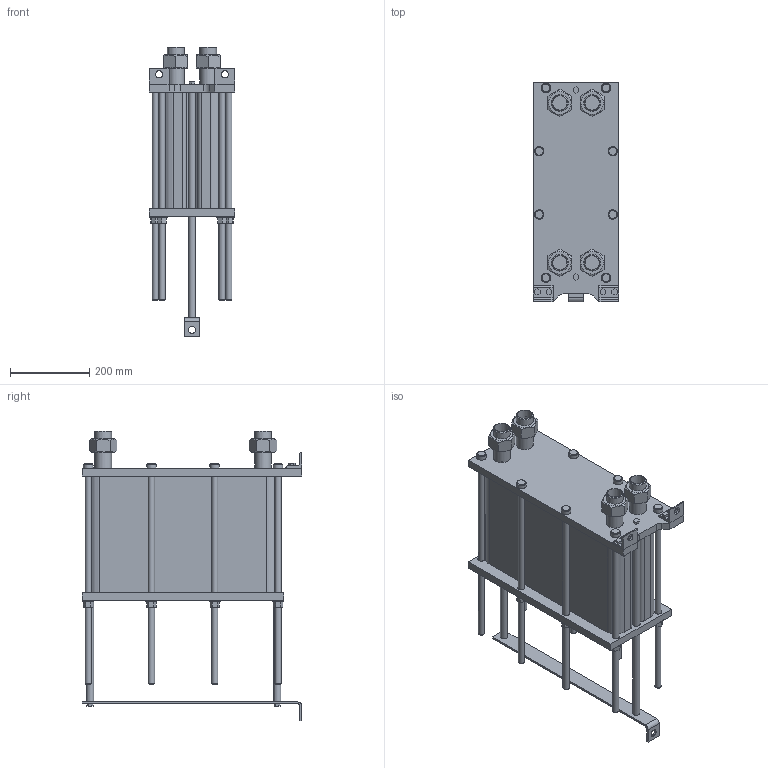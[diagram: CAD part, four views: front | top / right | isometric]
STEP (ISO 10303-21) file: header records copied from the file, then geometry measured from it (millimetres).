
FILE_DESCRIPTION(/* description */ (''),/* implementation_level */ '2;1');
FILE_NAME(/* name */ 'C:\Users\zhuro\Desktop\ENCO\TO\ЭН-004\ЭН-0,5-004-95-1.stp',/* time_stamp */ '2022-06-06T10:51:50+03:00',/* author */ ('zhuro'),/* organization */ (''),/* preprocessor_version */ 'ST-DEVELOPER v18.1',/* originating_system */ 'Autodesk Inventor 2022',/* authorisation */ '');
FILE_SCHEMA (('AUTOMOTIVE_DESIGN { 1 0 10303 214 3 1 1 }'));
Length unit declared in the file: millimetre
Products named in the file (1): ЭН-0,5-004-95-1
Bounding box: 216 x 555 x 733 mm (x, y, z)
Volume: 27823353.1 mm3; surface area: 1596373 mm2
Topology: 40 solids, 40 shells, 403 faces, 865 edges, 574 vertices
Faces by surface type: plane 272, cylinder 103, cone 28
Full cylindrical faces by diameter (mm): 10 x4, 16 x16, 18 x29, 20 x2, 24 x8, 28 x8, 36.3 x5, 42.3 x9
Entity records: 11137 total; most frequent: CARTESIAN_POINT 1939, DIRECTION 1879, ORIENTED_EDGE 1730, EDGE_CURVE 865, AXIS2_PLACEMENT_3D 658, VERTEX_POINT 574, LINE 563, VECTOR 563
